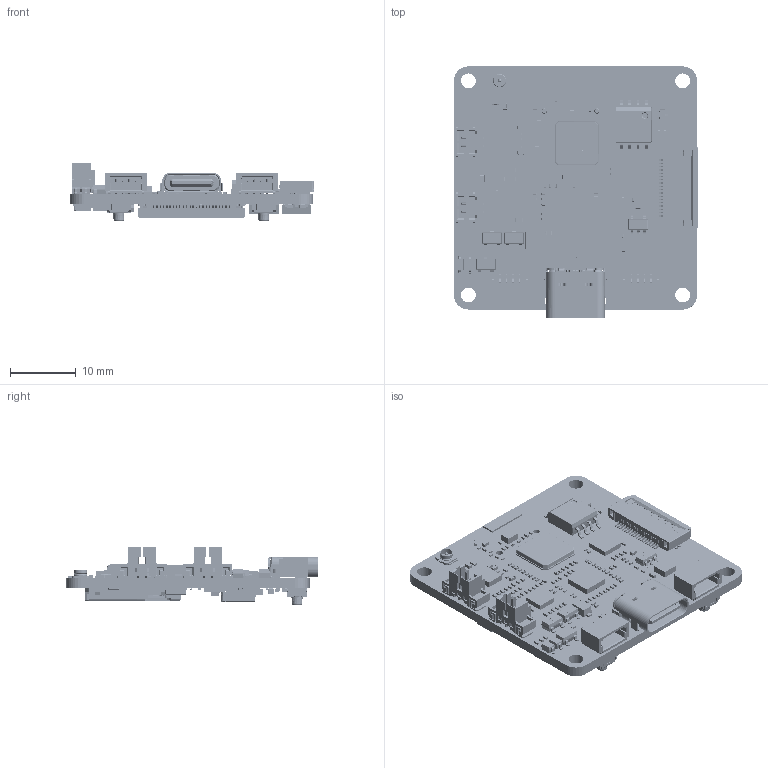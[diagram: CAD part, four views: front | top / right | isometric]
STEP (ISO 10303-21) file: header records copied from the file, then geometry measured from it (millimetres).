
FILE_DESCRIPTION((''),'2;1');
FILE_NAME('ESP32-S3-CAM-OVXXXX_REV1_1_ASM','2026-11-11T18:10:24',('xiaojisheng'),(''),'CREO PARAMETRIC BY PTC INC, 2021063','CREO PARAMETRIC BY PTC INC, 2021063','');
FILE_SCHEMA(('CONFIG_CONTROL_DESIGN','SHAPE_APPEARANCE_LAYERS_GROUPS'));
Products named in the file (368): BOARD; _2_1_20001; 5_1_2_A; _7_AF0; R_0402-3099_AF0_ASM_ASM; R_0402-5222_AF0_ASM_ASM; R0402_ASM; R58_ASM; USER_LIBRARY-SOT-523; Q1_ASM; USER_LIBRARY-QFN32_400_400_090_; U10_ASM; USER_LIBRARY-RES_0603-0201_1; USER_LIBRARY-RES_0603-0201_2; USER_LIBRARY-RES_0603-0201_3; USER_LIBRARY-RES_0603-0201_4; USER_LIBRARY-RES_0603-0201_ASM; R57_ASM; R56_ASM; R55_ASM; R54_ASM; R53_ASM; R52_ASM; R51_ASM; R49_ASM; R48_ASM; R47_ASM; R46_ASM; R45_ASM; MIC; MIC2_ASM; L9_ASM; USER_LIBRARY-0201_0603M__CAP_1; USER_LIBRARY-0201_0603M__CAP_2; USER_LIBRARY-0201_0603M__CAP_3; USER_LIBRARY-0201_0603M__CAP_ASM; C106_ASM; C105_ASM; C104_ASM; C103_ASM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
Assembly tree (597 placements, depth 7):
  ESP32-S3-CAM-OVXXXX_REV1_1_ASM
    PCB_ASM
      BOARD
      R58_ASM
        R0402_ASM
          R_0402-5222_AF0_ASM_ASM
            R_0402-3099_AF0_ASM_ASM
              _2_1_20001
              5_1_2_A
              _7_AF0
      Q1_ASM
        USER_LIBRARY-SOT-523
      U10_ASM
        USER_LIBRARY-QFN32_400_400_090_
      R57_ASM
        USER_LIBRARY-RES_0603-0201_ASM
          USER_LIBRARY-RES_0603-0201_1
          USER_LIBRARY-RES_0603-0201_2
          USER_LIBRARY-RES_0603-0201_3
          USER_LIBRARY-RES_0603-0201_4
      R56_ASM
        R0402_ASM
          R_0402-5222_AF0_ASM_ASM
            R_0402-3099_AF0_ASM_ASM
              _2_1_20001
              5_1_2_A
              _7_AF0
      R55_ASM
        USER_LIBRARY-RES_0603-0201_ASM
          USER_LIBRARY-RES_0603-0201_1
          USER_LIBRARY-RES_0603-0201_2
          USER_LIBRARY-RES_0603-0201_3
          USER_LIBRARY-RES_0603-0201_4
      R54_ASM
        R0402_ASM
          R_0402-5222_AF0_ASM_ASM
            R_0402-3099_AF0_ASM_ASM
              _2_1_20001
              5_1_2_A
              _7_AF0
      R53_ASM
        R0402_ASM
          R_0402-5222_AF0_ASM_ASM
            R_0402-3099_AF0_ASM_ASM
              _2_1_20001
              5_1_2_A
              _7_AF0
      R52_ASM
        USER_LIBRARY-RES_0603-0201_ASM
          USER_LIBRARY-RES_0603-0201_1
          USER_LIBRARY-RES_0603-0201_2
          USER_LIBRARY-RES_0603-0201_3
          USER_LIBRARY-RES_0603-0201_4
      R51_ASM
        USER_LIBRARY-RES_0603-0201_ASM
          USER_LIBRARY-RES_0603-0201_1
          USER_LIBRARY-RES_0603-0201_2
          USER_LIBRARY-RES_0603-0201_3
          USER_LIBRARY-RES_0603-0201_4
      R49_ASM
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Bounding box: 37.17 x 38.25 x 8.79 mm (x, y, z)
Volume: 3209.2 mm3; surface area: 8930.8 mm2
Topology: 747 solids, 770 shells, 35697 faces, 93685 edges, 60459 vertices
Faces by surface type: plane 22314, extrusion 7924, cylinder 4255, sphere 979, torus 85, cone 78, bspline 62
Entity records: 431020 total; most frequent: CARTESIAN_POINT 94906, ORIENTED_EDGE 53706, DIRECTION 49204, EDGE_CURVE 26870, VECTOR 22154, LINE 21250, PRESENTATION_STYLE_ASSIGNMENT 20954, STYLED_ITEM 18548
